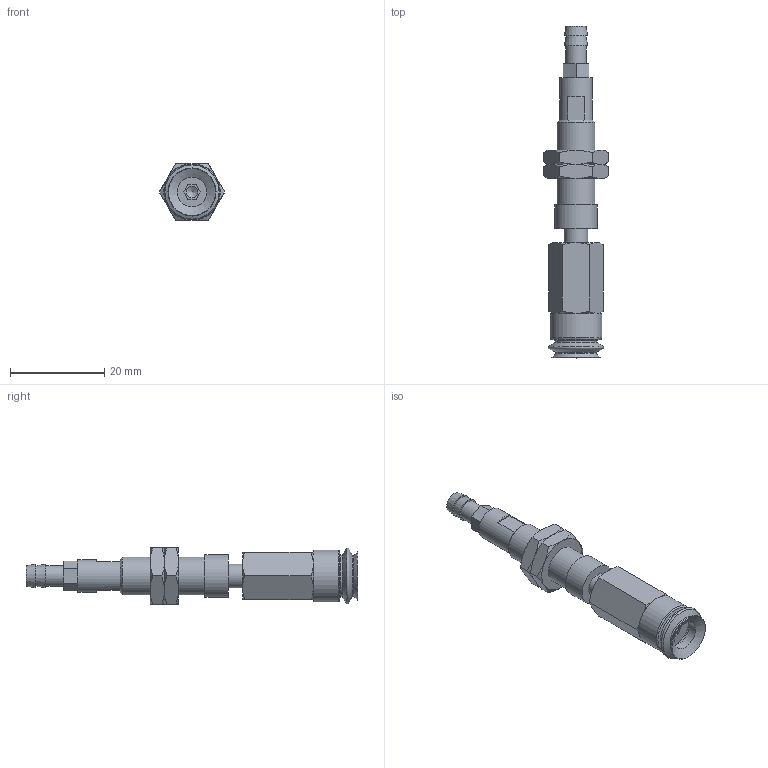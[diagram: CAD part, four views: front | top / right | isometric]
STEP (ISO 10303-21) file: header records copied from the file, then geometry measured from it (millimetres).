
FILE_DESCRIPTION(('STEP AP203'),'1');
FILE_NAME('-T.stp','2025-08-27T07:25:57',(' '),(' '),'Spatial InterOp 3D',' ',' ');
FILE_SCHEMA(('CONFIG_CONTROL_DESIGN'));
Length unit declared in the file: millimetre
Products named in the file (8): BNABPJTS-10-3-※-T; ADAPTER; NAPCTS-10-3-MBODY; Adapter-10-NAPJ; NUT-NAPJ-10-3-s; NAPJTS-10-3-FBODY; BPJG-10-※; T
Assembly tree (8 placements, depth 2):
  BNABPJTS-10-3-※-T
    ADAPTER
    NAPCTS-10-3-MBODY
    Adapter-10-NAPJ
    NUT-NAPJ-10-3-s  x2
    NAPJTS-10-3-FBODY
    BPJG-10-※
    T
Bounding box: 13.86 x 70.5 x 12 mm (x, y, z)
Volume: 4074.2 mm3; surface area: 4748.2 mm2
Topology: 8 solids, 8 shells, 140 faces, 289 edges, 175 vertices
Faces by surface type: plane 60, cone 54, cylinder 19, torus 7
Full cylindrical faces by diameter (mm): 2.5 x1, 3 x1, 4.134 x2, 4.3 x1, 4.6 x1, 5 x4, 6.266 x1, 7 x1, 7.188 x2, 7.8 x1, 8 x2, 9 x1, 11 x1
Entity records: 3590 total; most frequent: CARTESIAN_POINT 947, DIRECTION 480, ORIENTED_EDGE 380, AXIS2_PLACEMENT_3D 212, EDGE_CURVE 190, EDGE_LOOP 178, FACE_OUTER_BOUND 142, VERTEX_POINT 139
